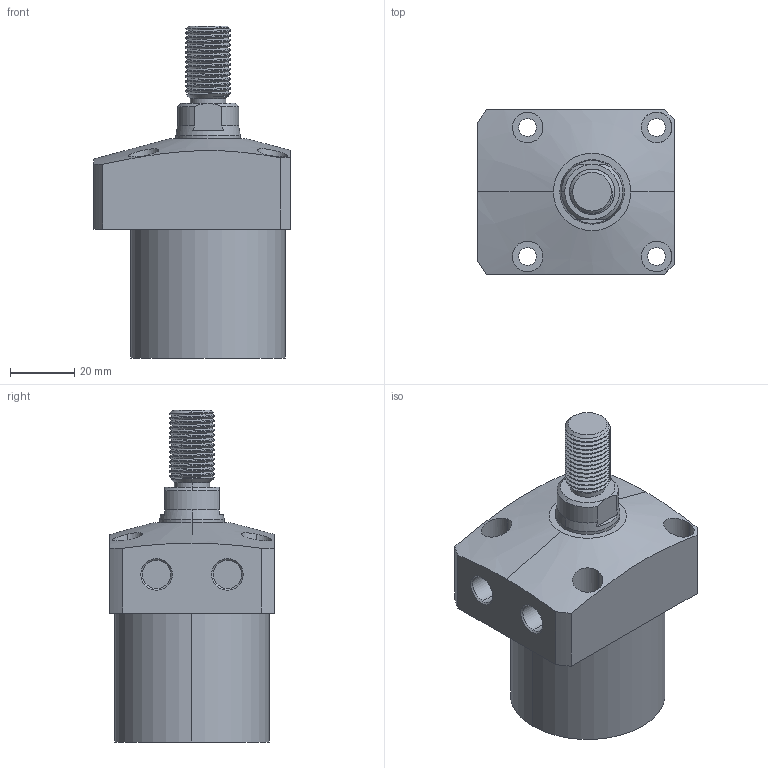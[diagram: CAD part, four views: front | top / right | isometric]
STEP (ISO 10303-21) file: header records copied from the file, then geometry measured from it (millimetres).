
FILE_DESCRIPTION (( 'STEP AP203' ), '1' );
FILE_NAME ('CLL-048CT-030.STEP', '2020-01-10T01:10:22', ( '' ), ( '' ), 'SwSTEP 2.0', 'SolidWorks 2015', '' );
FILE_SCHEMA (( 'CONFIG_CONTROL_DESIGN' ));
Length unit declared in the file: millimetre
Products named in the file (1): CLL-048CT-030
Bounding box: 61 x 51 x 103 mm (x, y, z)
Volume: 151401.6 mm3; surface area: 22010.4 mm2
Topology: 1 solids, 1 shells, 105 faces, 262 edges, 170 vertices
Faces by surface type: cylinder 63, plane 24, cone 16, bspline 2
Entity records: 5135 total; most frequent: CARTESIAN_POINT 2691, ORIENTED_EDGE 524, DIRECTION 464, EDGE_CURVE 262, AXIS2_PLACEMENT_3D 184, VERTEX_POINT 170, EDGE_LOOP 124, ADVANCED_FACE 105
